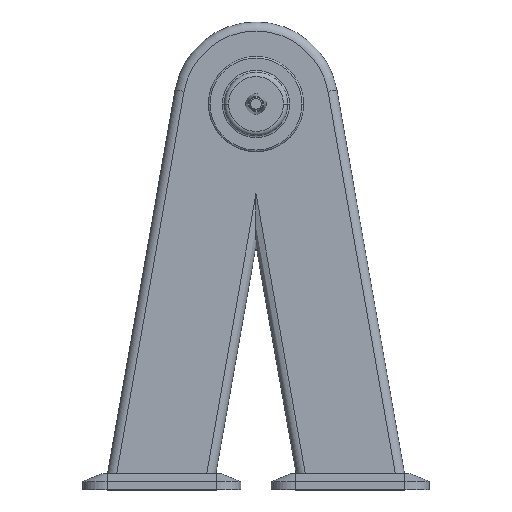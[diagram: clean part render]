
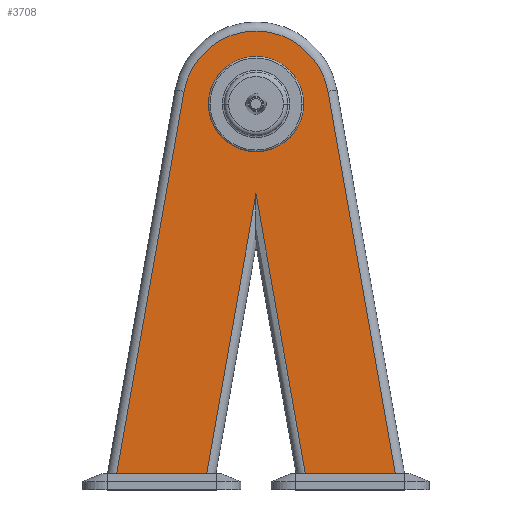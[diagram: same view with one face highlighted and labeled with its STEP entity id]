
A CAD part, top view. The second image highlights one B-rep face of the part: STEP entity #3708.
In plain terms, the highlighted planar face has unit normal (0, 0, 1).
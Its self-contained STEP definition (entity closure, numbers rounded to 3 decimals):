
#70 = LINE ( 'NONE', #1381, #869 ) ;
#142 = VERTEX_POINT ( 'NONE', #2048 ) ;
#180 = CARTESIAN_POINT ( 'NONE',  ( 0., 470., 63. ) ) ;
#196 = ORIENTED_EDGE ( 'NONE', *, *, #728, .T. ) ;
#333 = DIRECTION ( 'NONE',  ( 0., 0., 1. ) ) ;
#338 = VECTOR ( 'NONE', #3173, 1000. ) ;
#414 = VERTEX_POINT ( 'NONE', #2305 ) ;
#422 = CARTESIAN_POINT ( 'NONE',  ( -87.648, 485.455, 63. ) ) ;
#426 = VERTEX_POINT ( 'NONE', #3325 ) ;
#439 = ORIENTED_EDGE ( 'NONE', *, *, #3047, .T. ) ;
#465 = CARTESIAN_POINT ( 'NONE',  ( 87.648, 485.455, 63. ) ) ;
#561 = DIRECTION ( 'NONE',  ( 0., 0., 1. ) ) ;
#584 = ORIENTED_EDGE ( 'NONE', *, *, #3368, .T. ) ;
#645 = ORIENTED_EDGE ( 'NONE', *, *, #724, .F. ) ;
#662 = LINE ( 'NONE', #821, #338 ) ;
#724 = EDGE_CURVE ( 'NONE', #142, #1817, #662, .T. ) ;
#728 = EDGE_CURVE ( 'NONE', #3656, #414, #1244, .T. ) ;
#821 = CARTESIAN_POINT ( 'NONE',  ( 0., 20., 63. ) ) ;
#867 = CARTESIAN_POINT ( 'NONE',  ( 0., 360.583, 63. ) ) ;
#869 = VECTOR ( 'NONE', #2725, 1000. ) ;
#988 = CARTESIAN_POINT ( 'NONE',  ( 58., 470., 63. ) ) ;
#1060 = LINE ( 'NONE', #3421, #3654 ) ;
#1121 = DIRECTION ( 'NONE',  ( 1., 0., 0. ) ) ;
#1244 = LINE ( 'NONE', #465, #2917 ) ;
#1381 = CARTESIAN_POINT ( 'NONE',  ( -10.833, 299.147, 63. ) ) ;
#1422 = AXIS2_PLACEMENT_3D ( 'NONE', #180, #333, #1790 ) ;
#1452 = ORIENTED_EDGE ( 'NONE', *, *, #2141, .F. ) ;
#1473 = DIRECTION ( 'NONE',  ( -0.174, 0.985, 0. ) ) ;
#1513 = EDGE_LOOP ( 'NONE', ( #3785, #1452 ) ) ;
#1710 = EDGE_CURVE ( 'NONE', #3110, #3498, #4337, .T. ) ;
#1717 = CARTESIAN_POINT ( 'NONE',  ( 0., 470., 63. ) ) ;
#1759 = CARTESIAN_POINT ( 'NONE',  ( -169.72, 20., 63. ) ) ;
#1790 = DIRECTION ( 'NONE',  ( 1., 0., 0. ) ) ;
#1807 = AXIS2_PLACEMENT_3D ( 'NONE', #1717, #4070, #2054 ) ;
#1817 = VERTEX_POINT ( 'NONE', #1759 ) ;
#1820 = DIRECTION ( 'NONE',  ( -1., 0., 0. ) ) ;
#1871 = FACE_OUTER_BOUND ( 'NONE', #3210, .T. ) ;
#1928 = CARTESIAN_POINT ( 'NONE',  ( 66.166, -14.664, 63. ) ) ;
#1991 = VERTEX_POINT ( 'NONE', #867 ) ;
#2007 = EDGE_CURVE ( 'NONE', #414, #3117, #2290, .T. ) ;
#2048 = CARTESIAN_POINT ( 'NONE',  ( -60.054, 20., 63. ) ) ;
#2054 = DIRECTION ( 'NONE',  ( 1., 0., 0. ) ) ;
#2141 = EDGE_CURVE ( 'NONE', #3498, #3110, #2962, .T. ) ;
#2250 = LINE ( 'NONE', #1928, #4038 ) ;
#2290 = CIRCLE ( 'NONE', #3545, 89. ) ;
#2305 = CARTESIAN_POINT ( 'NONE',  ( 87.648, 485.455, 63. ) ) ;
#2386 = ORIENTED_EDGE ( 'NONE', *, *, #2007, .T. ) ;
#2581 = CARTESIAN_POINT ( 'NONE',  ( 0., 470., 63. ) ) ;
#2709 = VECTOR ( 'NONE', #1820, 1000. ) ;
#2725 = DIRECTION ( 'NONE',  ( 0.174, 0.985, 0. ) ) ;
#2803 = LINE ( 'NONE', #3849, #2709 ) ;
#2907 = DIRECTION ( 'NONE',  ( 1., 0., 0. ) ) ;
#2917 = VECTOR ( 'NONE', #1473, 1000. ) ;
#2962 = CIRCLE ( 'NONE', #1422, 58. ) ;
#3047 = EDGE_CURVE ( 'NONE', #3117, #1817, #1060, .T. ) ;
#3084 = ORIENTED_EDGE ( 'NONE', *, *, #4289, .F. ) ;
#3110 = VERTEX_POINT ( 'NONE', #3798 ) ;
#3117 = VERTEX_POINT ( 'NONE', #422 ) ;
#3140 = DIRECTION ( 'NONE',  ( 0., 0., 1. ) ) ;
#3173 = DIRECTION ( 'NONE',  ( -1., 0., 0. ) ) ;
#3210 = EDGE_LOOP ( 'NONE', ( #645, #3688, #584, #3084, #196, #2386, #439 ) ) ;
#3325 = CARTESIAN_POINT ( 'NONE',  ( 60.054, 20., 63. ) ) ;
#3368 = EDGE_CURVE ( 'NONE', #1991, #426, #2250, .T. ) ;
#3421 = CARTESIAN_POINT ( 'NONE',  ( -174.641, -7.91, 63. ) ) ;
#3431 = DIRECTION ( 'NONE',  ( -0.174, -0.985, 0. ) ) ;
#3498 = VERTEX_POINT ( 'NONE', #988 ) ;
#3545 = AXIS2_PLACEMENT_3D ( 'NONE', #2581, #561, #2907 ) ;
#3654 = VECTOR ( 'NONE', #3431, 1000. ) ;
#3656 = VERTEX_POINT ( 'NONE', #4104 ) ;
#3679 = FACE_BOUND ( 'NONE', #1513, .T. ) ;
#3688 = ORIENTED_EDGE ( 'NONE', *, *, #4103, .T. ) ;
#3708 = ADVANCED_FACE ( 'NONE', ( #3679, #1871 ), #3810, .T. ) ;
#3785 = ORIENTED_EDGE ( 'NONE', *, *, #1710, .F. ) ;
#3798 = CARTESIAN_POINT ( 'NONE',  ( -58., 470., 63. ) ) ;
#3810 = PLANE ( 'NONE',  #4275 ) ;
#3849 = CARTESIAN_POINT ( 'NONE',  ( 0., 20., 63. ) ) ;
#3955 = DIRECTION ( 'NONE',  ( 0.174, -0.985, 0. ) ) ;
#4038 = VECTOR ( 'NONE', #3955, 1000. ) ;
#4070 = DIRECTION ( 'NONE',  ( 0., 0., 1. ) ) ;
#4103 = EDGE_CURVE ( 'NONE', #142, #1991, #70, .T. ) ;
#4104 = CARTESIAN_POINT ( 'NONE',  ( 169.72, 20., 63. ) ) ;
#4140 = CARTESIAN_POINT ( 'NONE',  ( 0., 470., 63. ) ) ;
#4275 = AXIS2_PLACEMENT_3D ( 'NONE', #4140, #3140, #1121 ) ;
#4289 = EDGE_CURVE ( 'NONE', #3656, #426, #2803, .T. ) ;
#4337 = CIRCLE ( 'NONE', #1807, 58. ) ;
